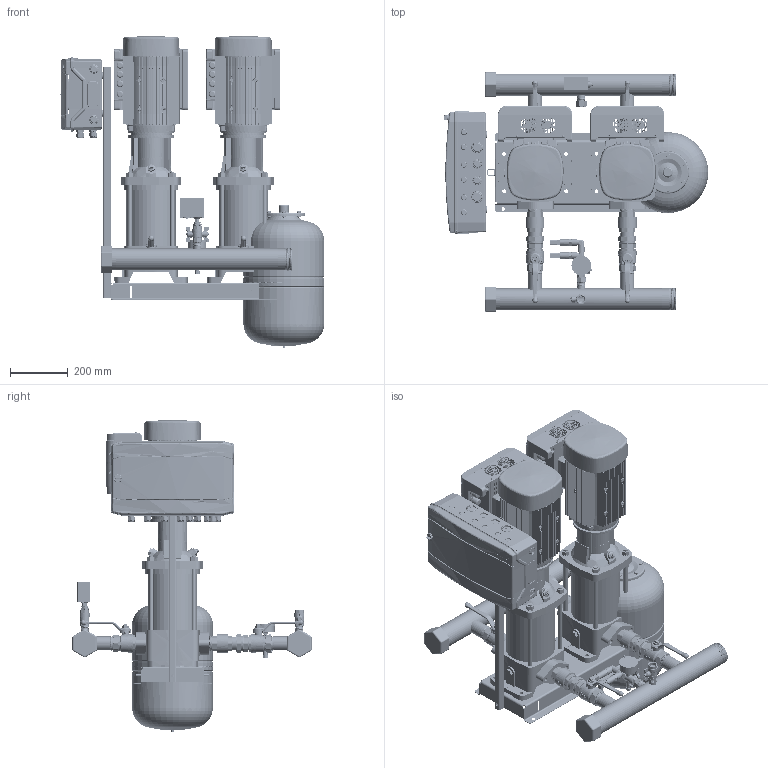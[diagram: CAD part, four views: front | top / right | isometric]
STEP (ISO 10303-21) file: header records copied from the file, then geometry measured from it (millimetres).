
FILE_DESCRIPTION(('CATIA V5 STEP Exchange','CAx-IF Rec.Pracs.--- Model Styling and Organization---1.4--- 2014-01-23','CAx-IF Rec.Pracs.---3D Tessellated Data Validation Properties---0.5---2014-09-14'),'2;1');
FILE_NAME('C:\Users\78432\YandexDisk\Drawings and 3D\3D Hydro Booster\Hydro-ME 3D\Hydro Models\Hydro ME 2 CRV10-xx\Hydro ME 2 CRVE10-7.stp','2023-09-20T09:48:47+00:00',('none'),('none'),'CATIA Version 5-6 Release 2019 SP6','CATIA V5 STEP AP242 v1','none');
FILE_SCHEMA(('AP242_MANAGED_MODEL_BASED_3D_ENGINEERING_MIM_LF {1 0 10303 442 1 1 4}'));
Length unit declared in the file: millimetre
Products named in the file (46): Hydro ME 2 CRVE10-7; 92051008; CRV10-7 Set; CRV 10-7_A_Oval_3kW; Base; Flange.1; Flange.2; Sleeve; Pumphead; Staybolt.1; Staybolt.2; Staybolt.3; Staybolt.4; Plug; AirVent; Motor; 92807544_9022-05; Hydraulica NY DN32 1,5 PN16; DN40_FM_LV_47.303.40; 92807557_9013-05; SAJ PDH30 4-7,5kW; 97941444; 405801; 405816; 91040267; 97941481; 00ID7527; Holder and CP 18mod; 92878909; Control ME (18mod); 2 sensors + manometer cpl.; manometr 16 bar; RPD-I-G1_2; 9021-01; 2070 1/2-1/2; _2020 1/2-1/2; 98594078; Tank 24L cpl.; DN20_FF_BF_47.300.20; WAV-24(D140 1'')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
Assembly tree (53 placements, depth 4):
  Hydro ME 2 CRVE10-7
    92051008
    CRV10-7 Set  x2
      CRV 10-7_A_Oval_3kW
        Base
        Flange.1
        Flange.2
        Sleeve
        Pumphead
        Staybolt.1
        Staybolt.2
        Staybolt.3
        Staybolt.4
        Plug
        AirVent
        Motor
      92807544_9022-05
      Hydraulica NY DN32 1,5 PN16
      DN40_FM_LV_47.303.40
      92807557_9013-05
      SAJ PDH30 4-7,5kW
    97941444  x2
      405801
      405816
      91040267
      97941481
    00ID7527  x2
    Holder and CP 18mod
      92878909
      Control ME (18mod)
    2 sensors + manometer cpl.
      manometr 16 bar
      RPD-I-G1_2  x2
      9021-01
      2070 1/2-1/2
      _2020 1/2-1/2
      98594078
    Tank 24L cpl.
      DN20_FF_BF_47.300.20
      9021-03
    Relay cpl.
      Relay RD-2R
      DN20_FF_BF_47.300.20
      2530 3/4-1/2
      _2530 1/2-1/4
    91078139
  WAV-24(D140 1'')
Bounding box: 916.82 x 829.22 x 1084.93 mm (x, y, z)
Volume: 74164814 mm3; surface area: 7211446.9 mm2
Topology: 182 solids, 414 shells, 28467 faces, 81152 edges, 54276 vertices
Faces by surface type: plane 11496, bspline 7304, cylinder 6775, cone 2087, torus 336, extrusion 260, sphere 209
Entity records: 689365 total; most frequent: CARTESIAN_POINT 345643, ORIENTED_EDGE 88497, EDGE_CURVE 44789, DIRECTION 40391, VERTEX_POINT 29928, VECTOR 18849, LINE 18784, B_SPLINE_CURVE_WITH_KNOTS 17720
